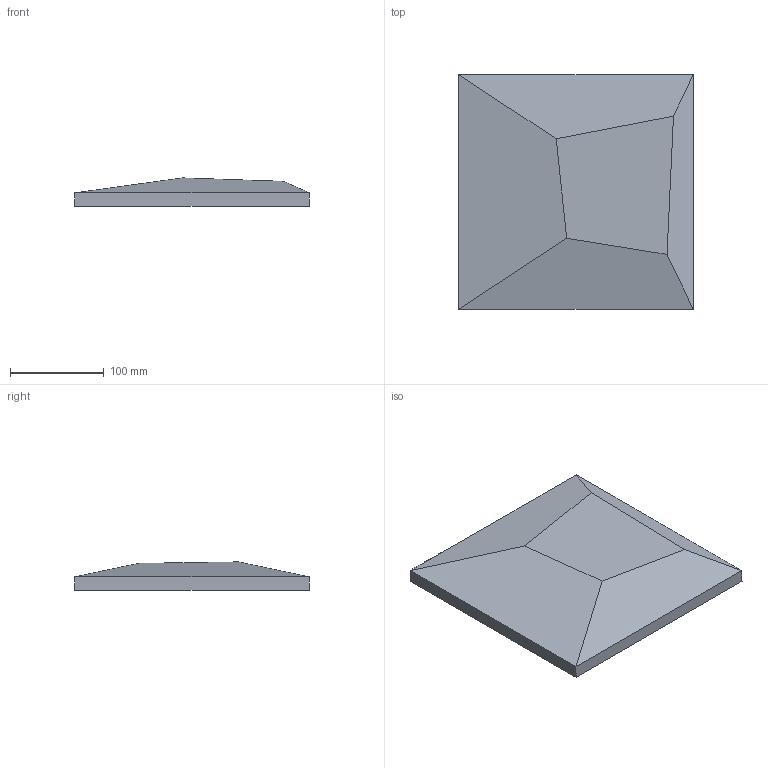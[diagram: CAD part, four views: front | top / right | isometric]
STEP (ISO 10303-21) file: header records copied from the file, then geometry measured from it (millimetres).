
FILE_DESCRIPTION(/* description */ (''),/* implementation_level */ '2;1');
FILE_NAME(/* name */ 'E03_PI~1',/* time_stamp */ '2022-11-14T21:01:15+01:00',/* author */ (''),/* organization */ (''),/* preprocessor_version */ 'ST-DEVELOPER v15',/* originating_system */ '',/* authorisation */ '');
FILE_SCHEMA (('AUTOMOTIVE_DESIGN'));
Length unit declared in the file: millimetre
Products named in the file (1): Document
Bounding box: 250 x 250 x 30 mm (x, y, z)
Volume: 1356138.5 mm3; surface area: 140172.2 mm2
Topology: 1 solids, 1 shells, 10 faces, 20 edges, 12 vertices
Faces by surface type: bspline 5, plane 5
Entity records: 268 total; most frequent: CARTESIAN_POINT 101, ORIENTED_EDGE 40, EDGE_CURVE 20, B_SPLINE_CURVE_WITH_KNOTS 20, VERTEX_POINT 12, ADVANCED_FACE 10, FACE_OUTER_BOUND 10, EDGE_LOOP 10
